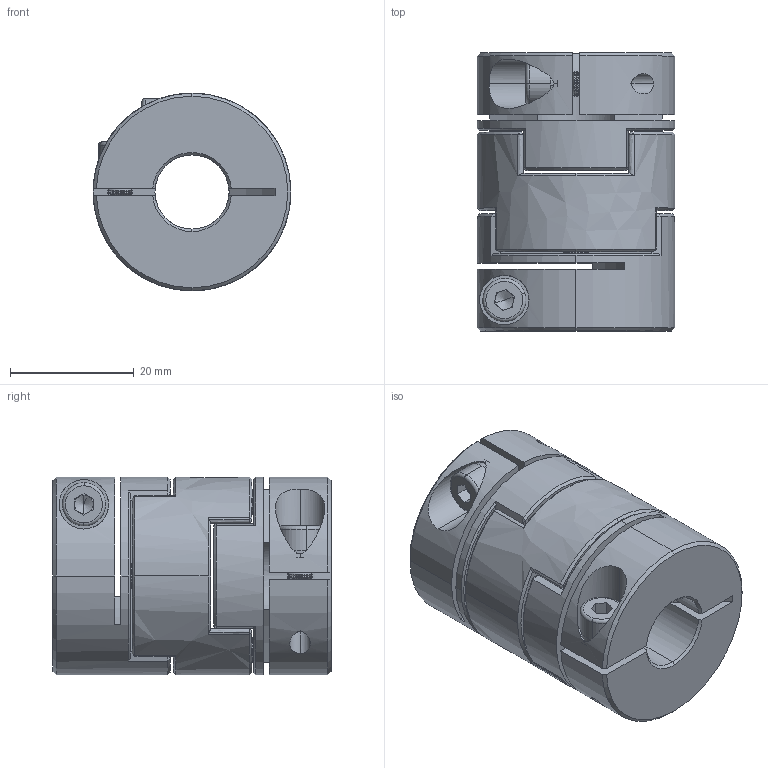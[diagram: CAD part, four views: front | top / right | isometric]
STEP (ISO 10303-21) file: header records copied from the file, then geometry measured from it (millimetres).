
FILE_DESCRIPTION (( 'STEP AP203' ), '1' );
FILE_NAME ('LZ-B-D32L45-12-14.STEP', '2021-10-29T06:47:46', ( '' ), ( '' ), 'SwSTEP 2.0', 'SolidWorks 2018', '' );
FILE_SCHEMA (( 'CONFIG_CONTROL_DESIGN' ));
Length unit declared in the file: millimetre
Products named in the file (1): LZ-B-D32L45-12-14
Bounding box: 32 x 45 x 32 mm (x, y, z)
Volume: 27387.7 mm3; surface area: 13070.9 mm2
Topology: 1 solids, 1 shells, 356 faces, 856 edges, 498 vertices
Faces by surface type: cone 118, cylinder 92, plane 84, bspline 54, torus 8
Entity records: 11145 total; most frequent: CARTESIAN_POINT 3197, ORIENTED_EDGE 1704, DIRECTION 1578, EDGE_CURVE 852, AXIS2_PLACEMENT_3D 619, VERTEX_POINT 498, EDGE_LOOP 382, ADVANCED_FACE 356
